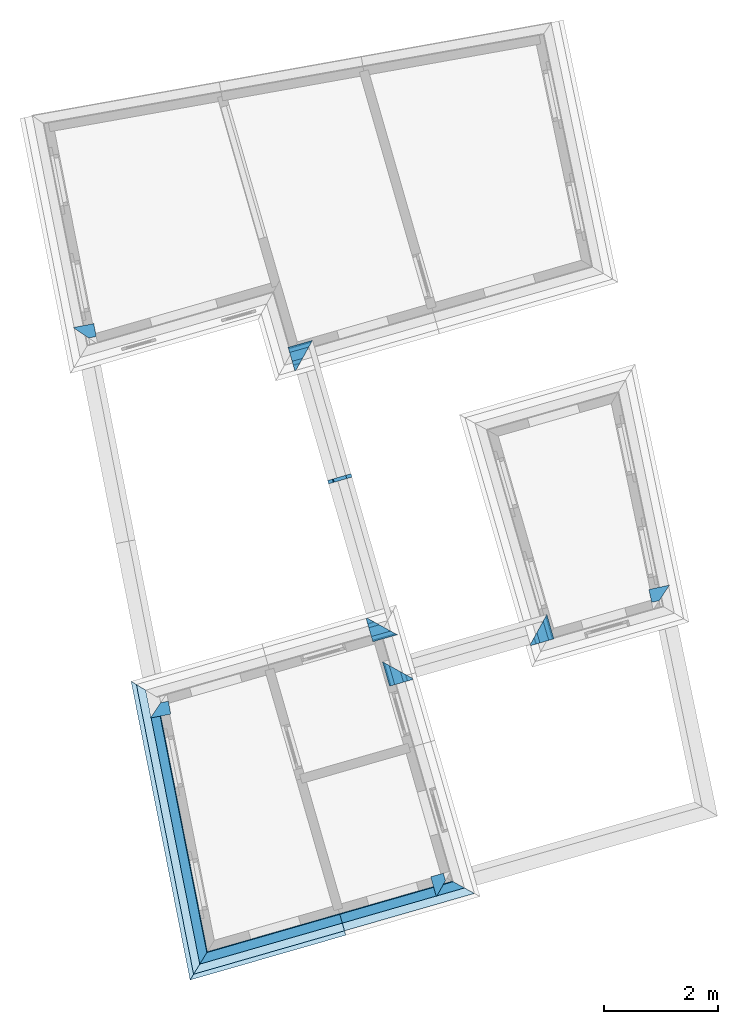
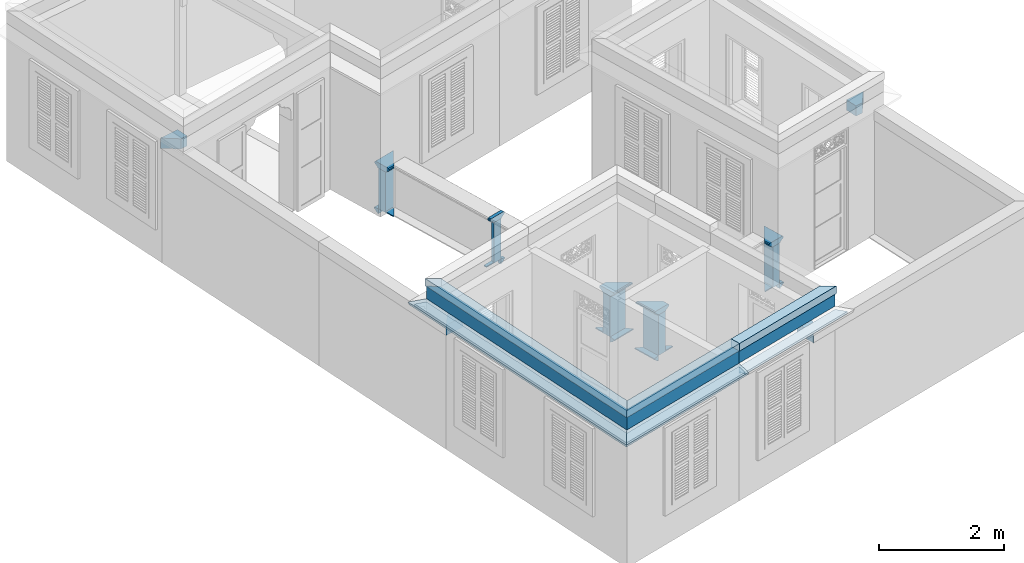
# One storey, part 19 of 22: 19 walls, 11 roofs.
"""IFC4 building model written with IfcOpenShell, lengths in metres."""

from ifc_helpers import new_model, si_unit, frame, origin_with_axes, place, context, subcontext, project, spatial, polyline, outline, extrude, clip, halfspace, material_profile, profile_set, profile_usage, type_object, element, save


model = new_model("IFC4")

# Units and contexts
model_context = context("Model", 3, world=origin_with_axes())
body_context = subcontext(model_context, "Body", "Model", "MODEL_VIEW")
ifc_project = project(units=[si_unit("PLANEANGLEUNIT", "RADIAN"), si_unit("MASSUNIT", "GRAM", prefix="KILO"), si_unit("FORCEUNIT", "NEWTON", prefix="KILO"), si_unit("LENGTHUNIT", "METRE"), si_unit("AREAUNIT", "SQUARE_METRE"), si_unit("VOLUMEUNIT", "CUBIC_METRE")], contexts=[model_context, model_context])

# Site, building, storey
site_placement = place(None, origin_with_axes())
site = spatial("IfcSite", under=ifc_project, at=site_placement, Name="Site plot-9", CompositionType="ELEMENT")
building_placement = place(None, origin_with_axes())
building = spatial("IfcBuilding", under=site, at=building_placement, Name="Building plot-9", CompositionType="ELEMENT")
storey_placement = place(None, frame((0.0, 0.0, 2.85), z_axis=(0.0, 0.0, 1.0), x_axis=(1.0, 0.0, 0.0)))
storey = spatial("IfcBuildingStorey", under=building, at=storey_placement, Name="plot-9 1", CompositionType="ELEMENT", Elevation=2.85)

# Walls
ifc_material_profile_1 = material_profile(None, outline(polyline([(0.265, 2.245), (0.265, 2.445), (0.035, 2.445), (0.035, 2.245), (0.265, 2.245)])))
ifc_profile_set_1 = profile_set([ifc_material_profile_1])
ifc_profile_usage_1 = profile_usage(ifc_profile_set_1)
wall_type_1 = type_object("IfcWallType", Name="parapet street_1", PredefinedType="PARAPET", material=ifc_profile_set_1)
wall_1_placement = place(storey_placement, frame((-23.2989770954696, 3.63143308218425, 0.0), z_axis=(0.981065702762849, 0.193675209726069, 0.0), x_axis=(-0.193675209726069, 0.981065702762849, 0.0)))
element("IfcWall", 1, at=wall_1_placement, inside=storey, type_object=wall_type_1, material=ifc_profile_usage_1, Name="parapet street_1", context=body_context, shape_type="Clipping", body=[
    clip(clip(extrude(outline(polyline([(0.265, 2.245), (0.265, 2.445), (0.035, 2.445), (0.035, 2.245), (0.265, 2.245)])), origin_with_axes(), (0.0, 0.0, 1.0), 2.1), halfspace(frame((0.0, 0.0, 1.1), z_axis=(-9.49410759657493e-16, 0.0, -1.0), x_axis=(0.0, 1.0, 0.0)), True)), halfspace(frame((0.0, 0.0, 1.0), z_axis=(-0.707106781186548, 0.0, -0.707106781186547), x_axis=(0.0, 1.0, 0.0)), False)),
])
ifc_profile_usage_2 = profile_usage(ifc_profile_set_1)
wall_2_placement = place(storey_placement, frame((-19.9928869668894, -2.27273832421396, 0.0), z_axis=(-0.981065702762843, -0.193675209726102, 0.0), x_axis=(0.193675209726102, -0.981065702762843, 0.0)))
element("IfcWall", 2, at=wall_2_placement, inside=storey, type_object=wall_type_1, material=ifc_profile_usage_2, Name="parapet street_1", context=body_context, shape_type="Clipping", body=[
    clip(clip(extrude(outline(polyline([(0.265, 2.245), (0.265, 2.445), (0.035, 2.445), (0.035, 2.245), (0.265, 2.245)])), origin_with_axes(), (0.0, 0.0, 1.0), 2.1), halfspace(frame((0.0, 0.0, 1.1), z_axis=(0.707106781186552, 0.0, -0.707106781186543), x_axis=(0.0, 1.0, 0.0)), True)), halfspace(frame((0.0, 0.0, 1.0), z_axis=(-5.0532154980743e-16, 0.0, -1.0), x_axis=(0.0, 1.0, 0.0)), False)),
])
ifc_material_profile_2 = material_profile(None, outline(polyline([(0.265, 2.245), (0.265, 2.445), (0.035, 2.445), (0.035, 2.245), (0.265, 2.245)])))
ifc_profile_set_2 = profile_set([ifc_material_profile_2])
ifc_profile_usage_3 = profile_usage(ifc_profile_set_2)
wall_type_2 = type_object("IfcWallType", Name="parapet street_1", PredefinedType="PARAPET", material=ifc_profile_set_2)
wall_3_placement = place(storey_placement, frame((-15.8179590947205, -6.5580326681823, 0.0), z_axis=(-0.276523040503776, 0.961007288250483, 0.0), x_axis=(-0.961007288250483, -0.276523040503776, 0.0)))
element("IfcWall", 3, at=wall_3_placement, inside=storey, type_object=wall_type_2, material=ifc_profile_usage_3, Name="parapet street_1", context=body_context, shape_type="Clipping", body=[
    clip(clip(extrude(outline(polyline([(0.265, 2.245), (0.265, 2.445), (0.035, 2.445), (0.035, 2.245), (0.265, 2.245)])), origin_with_axes(), (0.0, 0.0, 1.0), 2.1), halfspace(frame((0.0, 0.0, 1.1), z_axis=(-6.12323399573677e-17, 0.0, -1.0), x_axis=(0.0, 1.0, 0.0)), True)), halfspace(frame((0.0, 0.0, 1.0), z_axis=(-0.707106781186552, 0.0, -0.707106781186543), x_axis=(0.0, 1.0, 0.0)), False)),
])
ifc_profile_usage_4 = profile_usage(ifc_profile_set_2)
wall_4_placement = place(storey_placement, frame((-13.4837468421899, -1.01017131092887, 0.0), z_axis=(0.97889137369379, 0.204381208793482, 0.0), x_axis=(-0.204381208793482, 0.97889137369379, 0.0)))
element("IfcWall", 4, at=wall_4_placement, inside=storey, type_object=wall_type_2, material=ifc_profile_usage_4, Name="parapet street_1", context=body_context, shape_type="Clipping", body=[
    clip(clip(extrude(outline(polyline([(0.265, 2.245), (0.265, 2.445), (0.035, 2.445), (0.035, 2.245), (0.265, 2.245)])), origin_with_axes(), (0.0, 0.0, 1.0), 2.1), halfspace(frame((0.0, 0.0, 1.1), z_axis=(0.707106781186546, 0.0, -0.707106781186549), x_axis=(0.0, 1.0, 0.0)), True)), halfspace(frame((0.0, 0.0, 1.0), z_axis=(3.82856869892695e-16, 0.0, -1.0), x_axis=(0.0, 1.0, 0.0)), False)),
])
ifc_material_profile_3 = material_profile(None, outline(polyline([(0.25, 0.0), (0.25, 0.795), (0.09, 0.795), (0.09, 0.02), (-0.08, 0.02), (-0.08, 0.0), (0.25, 0.0)])))
ifc_profile_set_3 = profile_set([ifc_material_profile_3])
ifc_profile_usage_5 = profile_usage(ifc_profile_set_3)
wall_type_3 = type_object("IfcWallType", Name="parapet internal_0", PredefinedType="PARAPET", material=ifc_profile_set_3)
wall_5_placement = place(storey_placement, frame((-16.4265914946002, -0.826502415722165, 0.0), z_axis=(-0.961007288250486, -0.276523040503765, 0.0), x_axis=(0.276523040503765, -0.961007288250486, 0.0)))
element("IfcWall", 5, at=wall_5_placement, inside=storey, type_object=wall_type_3, material=ifc_profile_usage_5, Name="parapet internal_0", context=body_context, shape_type="Clipping", body=[
    clip(clip(extrude(outline(polyline([(0.25, 0.0), (0.25, 0.795), (0.09, 0.795), (0.09, 0.02), (-0.08, 0.02), (-0.08, 0.0), (0.25, 0.0)])), origin_with_axes(), (0.0, 0.0, 1.0), 2.1), halfspace(frame((0.0, 0.0, 1.1), z_axis=(3.82856869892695e-16, 0.0, -1.0), x_axis=(0.0, 1.0, 0.0)), True)), halfspace(frame((0.0, 0.0, 1.0), z_axis=(-0.70710678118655, 0.0, -0.707106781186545), x_axis=(0.0, 1.0, 0.0)), False)),
])
ifc_profile_usage_6 = profile_usage(ifc_profile_set_3)
wall_6_placement = place(storey_placement, frame((-18.3789606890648, 2.34227883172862, 0.0), z_axis=(0.276523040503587, -0.961007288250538, 0.0), x_axis=(0.961007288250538, 0.276523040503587, 0.0)))
element("IfcWall", 6, at=wall_6_placement, inside=storey, type_object=wall_type_3, material=ifc_profile_usage_6, Name="parapet internal_0", context=body_context, shape_type="Clipping", body=[
    clip(clip(extrude(outline(polyline([(0.25, 0.0), (0.25, 0.795), (0.09, 0.795), (0.09, 0.02), (-0.08, 0.02), (-0.08, 0.0), (0.25, 0.0)])), origin_with_axes(), (0.0, 0.0, 1.0), 2.06020774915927), halfspace(frame((0.0, 0.0, 1.06020774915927), z_axis=(-1.89465280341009e-13, 0.0, -1.0), x_axis=(0.0, 1.0, 0.0)), True)), halfspace(frame((0.0, 0.0, 1.0), z_axis=(3.82856869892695e-16, 0.0, -1.0), x_axis=(0.0, 1.0, 0.0)), False)),
])
ifc_profile_usage_7 = profile_usage(ifc_profile_set_3)
wall_7_placement = place(storey_placement, frame((-19.7363040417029, 3.08151869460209, 0.0), z_axis=(0.961007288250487, 0.276523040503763, 0.0), x_axis=(-0.276523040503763, 0.961007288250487, 0.0)))
element("IfcWall", 7, at=wall_7_placement, inside=storey, type_object=wall_type_3, material=ifc_profile_usage_7, Name="parapet internal_0", context=body_context, shape_type="Clipping", body=[
    clip(clip(extrude(outline(polyline([(0.25, 0.0), (0.25, 0.795), (0.09, 0.795), (0.09, 0.02), (-0.08, 0.02), (-0.08, 0.0), (0.25, 0.0)])), origin_with_axes(), (0.0, 0.0, 1.0), 2.1), halfspace(frame((0.0, 0.0, 1.1), z_axis=(0.707106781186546, 0.0, -0.707106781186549), x_axis=(0.0, 1.0, 0.0)), True)), halfspace(frame((0.0, 0.0, 1.0), z_axis=(1.71512449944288e-15, 0.0, -1.0), x_axis=(0.0, 1.0, 0.0)), False)),
])
ifc_material_profile_4 = material_profile(None, outline(polyline([(0.265, 0.795), (0.268, 0.807), (0.274, 0.816), (0.283, 0.822), (0.295, 0.825), (0.295, 0.84), (0.305, 0.84), (0.317, 0.842), (0.326, 0.849), (0.333, 0.858), (0.335, 0.87), (0.333, 0.882), (0.326, 0.891), (0.317, 0.898), (0.305, 0.9), (0.035, 0.9), (0.023, 0.898), (0.014, 0.891), (0.007, 0.882), (0.005, 0.87), (0.007, 0.858), (0.014, 0.849), (0.023, 0.842), (0.035, 0.84), (0.045, 0.84), (0.045, 0.825), (0.057, 0.822), (0.066, 0.816), (0.072, 0.807), (0.075, 0.795), (0.265, 0.795)])))
ifc_profile_set_4 = profile_set([ifc_material_profile_4])
ifc_profile_usage_8 = profile_usage(ifc_profile_set_4)
wall_type_4 = type_object("IfcWallType", Name="parapet internal_1", PredefinedType="PARAPET", material=ifc_profile_set_4)
wall_8_placement = place(storey_placement, frame((-16.4265914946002, -0.826502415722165, 0.0), z_axis=(-0.961007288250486, -0.276523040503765, 0.0), x_axis=(0.276523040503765, -0.961007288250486, 0.0)))
element("IfcWall", 8, at=wall_8_placement, inside=storey, type_object=wall_type_4, material=ifc_profile_usage_8, Name="parapet internal_1", context=body_context, shape_type="Clipping", body=[
    clip(clip(extrude(outline(polyline([(0.265, 0.795), (0.268, 0.807), (0.274, 0.816), (0.283, 0.822), (0.295, 0.825), (0.295, 0.84), (0.305, 0.84), (0.317, 0.842), (0.326, 0.849), (0.333, 0.858), (0.335, 0.87), (0.333, 0.882), (0.326, 0.891), (0.317, 0.898), (0.305, 0.9), (0.035, 0.9), (0.023, 0.898), (0.014, 0.891), (0.007, 0.882), (0.005, 0.87), (0.007, 0.858), (0.014, 0.849), (0.023, 0.842), (0.035, 0.84), (0.045, 0.84), (0.045, 0.825), (0.057, 0.822), (0.066, 0.816), (0.072, 0.807), (0.075, 0.795), (0.265, 0.795)])), origin_with_axes(), (0.0, 0.0, 1.0), 2.1), halfspace(frame((0.0, 0.0, 1.1), z_axis=(3.82856869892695e-16, 0.0, -1.0), x_axis=(0.0, 1.0, 0.0)), True)), halfspace(frame((0.0, 0.0, 1.0), z_axis=(-0.70710678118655, 0.0, -0.707106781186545), x_axis=(0.0, 1.0, 0.0)), False)),
])
ifc_profile_usage_9 = profile_usage(ifc_profile_set_4)
wall_9_placement = place(storey_placement, frame((-18.3789606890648, 2.34227883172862, 0.0), z_axis=(0.276523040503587, -0.961007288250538, 0.0), x_axis=(0.961007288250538, 0.276523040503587, 0.0)))
element("IfcWall", 9, at=wall_9_placement, inside=storey, type_object=wall_type_4, material=ifc_profile_usage_9, Name="parapet internal_1", context=body_context, shape_type="Clipping", body=[
    clip(clip(extrude(outline(polyline([(0.265, 0.795), (0.268, 0.807), (0.274, 0.816), (0.283, 0.822), (0.295, 0.825), (0.295, 0.84), (0.305, 0.84), (0.317, 0.842), (0.326, 0.849), (0.333, 0.858), (0.335, 0.87), (0.333, 0.882), (0.326, 0.891), (0.317, 0.898), (0.305, 0.9), (0.035, 0.9), (0.023, 0.898), (0.014, 0.891), (0.007, 0.882), (0.005, 0.87), (0.007, 0.858), (0.014, 0.849), (0.023, 0.842), (0.035, 0.84), (0.045, 0.84), (0.045, 0.825), (0.057, 0.822), (0.066, 0.816), (0.072, 0.807), (0.075, 0.795), (0.265, 0.795)])), origin_with_axes(), (0.0, 0.0, 1.0), 2.06020774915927), halfspace(frame((0.0, 0.0, 1.06020774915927), z_axis=(-1.89465280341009e-13, 0.0, -1.0), x_axis=(0.0, 1.0, 0.0)), True)), halfspace(frame((0.0, 0.0, 1.0), z_axis=(3.82856869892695e-16, 0.0, -1.0), x_axis=(0.0, 1.0, 0.0)), False)),
])
ifc_profile_usage_10 = profile_usage(ifc_profile_set_4)
wall_10_placement = place(storey_placement, frame((-19.7363040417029, 3.08151869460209, 0.0), z_axis=(0.961007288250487, 0.276523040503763, 0.0), x_axis=(-0.276523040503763, 0.961007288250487, 0.0)))
element("IfcWall", 10, at=wall_10_placement, inside=storey, type_object=wall_type_4, material=ifc_profile_usage_10, Name="parapet internal_1", context=body_context, shape_type="Clipping", body=[
    clip(clip(extrude(outline(polyline([(0.265, 0.795), (0.268, 0.807), (0.274, 0.816), (0.283, 0.822), (0.295, 0.825), (0.295, 0.84), (0.305, 0.84), (0.317, 0.842), (0.326, 0.849), (0.333, 0.858), (0.335, 0.87), (0.333, 0.882), (0.326, 0.891), (0.317, 0.898), (0.305, 0.9), (0.035, 0.9), (0.023, 0.898), (0.014, 0.891), (0.007, 0.882), (0.005, 0.87), (0.007, 0.858), (0.014, 0.849), (0.023, 0.842), (0.035, 0.84), (0.045, 0.84), (0.045, 0.825), (0.057, 0.822), (0.066, 0.816), (0.072, 0.807), (0.075, 0.795), (0.265, 0.795)])), origin_with_axes(), (0.0, 0.0, 1.0), 2.1), halfspace(frame((0.0, 0.0, 1.1), z_axis=(0.707106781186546, 0.0, -0.707106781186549), x_axis=(0.0, 1.0, 0.0)), True)), halfspace(frame((0.0, 0.0, 1.0), z_axis=(1.71512449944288e-15, 0.0, -1.0), x_axis=(0.0, 1.0, 0.0)), False)),
])
ifc_material_profile_5 = material_profile(None, outline(polyline([(0.25, -0.1), (0.265, -0.1), (0.265, -0.085), (0.278, -0.084), (0.289, -0.081), (0.301, -0.074), (0.309, -0.065), (0.315, -0.055), (0.324, -0.044), (0.334, -0.038), (0.345, -0.035), (0.345, -0.015), (0.25, 0.0), (0.25, -0.1)])))
ifc_profile_set_5 = profile_set([ifc_material_profile_5])
ifc_profile_usage_11 = profile_usage(ifc_profile_set_5)
wall_type_5 = type_object("IfcWallType", Name="parapet internal_2", PredefinedType="PARAPET", material=ifc_profile_set_5)
wall_11_placement = place(storey_placement, frame((-16.4265914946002, -0.826502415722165, 0.0), z_axis=(-0.961007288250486, -0.276523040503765, 0.0), x_axis=(0.276523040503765, -0.961007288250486, 0.0)))
element("IfcWall", 11, at=wall_11_placement, inside=storey, type_object=wall_type_5, material=ifc_profile_usage_11, Name="parapet internal_2", context=body_context, shape_type="Clipping", body=[
    clip(clip(extrude(outline(polyline([(0.25, -0.1), (0.265, -0.1), (0.265, -0.085), (0.278, -0.084), (0.289, -0.081), (0.301, -0.074), (0.309, -0.065), (0.315, -0.055), (0.324, -0.044), (0.334, -0.038), (0.345, -0.035), (0.345, -0.015), (0.25, 0.0), (0.25, -0.1)])), origin_with_axes(), (0.0, 0.0, 1.0), 2.1), halfspace(frame((0.0, 0.0, 1.1), z_axis=(3.82856869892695e-16, 0.0, -1.0), x_axis=(0.0, 1.0, 0.0)), True)), halfspace(frame((0.0, 0.0, 1.0), z_axis=(-0.70710678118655, 0.0, -0.707106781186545), x_axis=(0.0, 1.0, 0.0)), False)),
])
ifc_profile_usage_12 = profile_usage(ifc_profile_set_5)
wall_12_placement = place(storey_placement, frame((-18.3789606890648, 2.34227883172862, 0.0), z_axis=(0.276523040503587, -0.961007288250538, 0.0), x_axis=(0.961007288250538, 0.276523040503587, 0.0)))
element("IfcWall", 12, at=wall_12_placement, inside=storey, type_object=wall_type_5, material=ifc_profile_usage_12, Name="parapet internal_2", context=body_context, shape_type="Clipping", body=[
    clip(clip(extrude(outline(polyline([(0.25, -0.1), (0.265, -0.1), (0.265, -0.085), (0.278, -0.084), (0.289, -0.081), (0.301, -0.074), (0.309, -0.065), (0.315, -0.055), (0.324, -0.044), (0.334, -0.038), (0.345, -0.035), (0.345, -0.015), (0.25, 0.0), (0.25, -0.1)])), origin_with_axes(), (0.0, 0.0, 1.0), 2.06020774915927), halfspace(frame((0.0, 0.0, 1.06020774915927), z_axis=(-1.89465280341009e-13, 0.0, -1.0), x_axis=(0.0, 1.0, 0.0)), True)), halfspace(frame((0.0, 0.0, 1.0), z_axis=(3.82856869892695e-16, 0.0, -1.0), x_axis=(0.0, 1.0, 0.0)), False)),
])
ifc_profile_usage_13 = profile_usage(ifc_profile_set_5)
wall_13_placement = place(storey_placement, frame((-19.7363040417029, 3.08151869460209, 0.0), z_axis=(0.961007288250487, 0.276523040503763, 0.0), x_axis=(-0.276523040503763, 0.961007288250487, 0.0)))
element("IfcWall", 13, at=wall_13_placement, inside=storey, type_object=wall_type_5, material=ifc_profile_usage_13, Name="parapet internal_2", context=body_context, shape_type="Clipping", body=[
    clip(clip(extrude(outline(polyline([(0.25, -0.1), (0.265, -0.1), (0.265, -0.085), (0.278, -0.084), (0.289, -0.081), (0.301, -0.074), (0.309, -0.065), (0.315, -0.055), (0.324, -0.044), (0.334, -0.038), (0.345, -0.035), (0.345, -0.015), (0.25, 0.0), (0.25, -0.1)])), origin_with_axes(), (0.0, 0.0, 1.0), 2.1), halfspace(frame((0.0, 0.0, 1.1), z_axis=(0.707106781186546, 0.0, -0.707106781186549), x_axis=(0.0, 1.0, 0.0)), True)), halfspace(frame((0.0, 0.0, 1.0), z_axis=(1.71512449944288e-15, 0.0, -1.0), x_axis=(0.0, 1.0, 0.0)), False)),
])
ifc_material_profile_6 = material_profile(None, outline(polyline([(0.25, 0.0), (0.25, 0.795), (0.09, 0.795), (0.09, 0.02), (-0.08, 0.02), (-0.08, 0.0), (0.25, 0.0)])))
ifc_profile_set_6 = profile_set([ifc_material_profile_6])
ifc_profile_usage_14 = profile_usage(ifc_profile_set_6)
wall_type_6 = type_object("IfcWallType", Name="parapet internal_0", PredefinedType="PARAPET", material=ifc_profile_set_6)
wall_14_placement = place(storey_placement, frame((-14.8562093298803, -0.449529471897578, 0.0), z_axis=(0.276523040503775, -0.961007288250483, 0.0), x_axis=(0.961007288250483, 0.276523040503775, 0.0)))
element("IfcWall", 14, at=wall_14_placement, inside=storey, type_object=wall_type_6, material=ifc_profile_usage_14, Name="parapet internal_0", context=body_context, shape_type="Clipping", body=[
    clip(clip(extrude(outline(polyline([(0.25, 0.0), (0.25, 0.795), (0.09, 0.795), (0.09, 0.02), (-0.08, 0.02), (-0.08, 0.0), (0.25, 0.0)])), origin_with_axes(), (0.0, 0.0, 1.0), 2.1), halfspace(frame((0.0, 0.0, 1.1), z_axis=(3.82856869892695e-16, 0.0, -1.0), x_axis=(0.0, 1.0, 0.0)), True)), halfspace(frame((0.0, 0.0, 1.0), z_axis=(-0.707106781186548, 0.0, -0.707106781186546), x_axis=(0.0, 1.0, 0.0)), False)),
])
ifc_profile_usage_15 = profile_usage(ifc_profile_set_6)
wall_15_placement = place(storey_placement, frame((-16.4890859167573, -3.1045852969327, 0.0), z_axis=(-0.276523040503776, 0.961007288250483, 0.0), x_axis=(-0.961007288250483, -0.276523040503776, 0.0)))
element("IfcWall", 15, at=wall_15_placement, inside=storey, type_object=wall_type_6, material=ifc_profile_usage_15, Name="parapet internal_0", context=body_context, shape_type="Clipping", body=[
    clip(clip(extrude(outline(polyline([(0.25, 0.0), (0.25, 0.795), (0.09, 0.795), (0.09, 0.02), (-0.08, 0.02), (-0.08, 0.0), (0.25, 0.0)])), origin_with_axes(), (0.0, 0.0, 1.0), 2.1), halfspace(frame((0.0, 0.0, 1.1), z_axis=(0.707106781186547, 0.0, -0.707106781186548), x_axis=(0.0, 1.0, 0.0)), True)), halfspace(frame((0.0, 0.0, 1.0), z_axis=(-6.12323399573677e-17, 0.0, -1.0), x_axis=(0.0, 1.0, 0.0)), False)),
])
ifc_material_profile_7 = material_profile(None, outline(polyline([(0.265, 0.795), (0.268, 0.807), (0.274, 0.816), (0.283, 0.822), (0.295, 0.825), (0.295, 0.84), (0.305, 0.84), (0.317, 0.842), (0.326, 0.849), (0.333, 0.858), (0.335, 0.87), (0.333, 0.882), (0.326, 0.891), (0.317, 0.898), (0.305, 0.9), (0.035, 0.9), (0.023, 0.898), (0.014, 0.891), (0.007, 0.882), (0.005, 0.87), (0.007, 0.858), (0.014, 0.849), (0.023, 0.842), (0.035, 0.84), (0.045, 0.84), (0.045, 0.825), (0.057, 0.822), (0.066, 0.816), (0.072, 0.807), (0.075, 0.795), (0.265, 0.795)])))
ifc_profile_set_7 = profile_set([ifc_material_profile_7])
ifc_profile_usage_16 = profile_usage(ifc_profile_set_7)
wall_type_7 = type_object("IfcWallType", Name="parapet internal_1", PredefinedType="PARAPET", material=ifc_profile_set_7)
wall_16_placement = place(storey_placement, frame((-14.8562093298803, -0.449529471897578, 0.0), z_axis=(0.276523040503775, -0.961007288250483, 0.0), x_axis=(0.961007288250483, 0.276523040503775, 0.0)))
element("IfcWall", 16, at=wall_16_placement, inside=storey, type_object=wall_type_7, material=ifc_profile_usage_16, Name="parapet internal_1", context=body_context, shape_type="Clipping", body=[
    clip(clip(extrude(outline(polyline([(0.265, 0.795), (0.268, 0.807), (0.274, 0.816), (0.283, 0.822), (0.295, 0.825), (0.295, 0.84), (0.305, 0.84), (0.317, 0.842), (0.326, 0.849), (0.333, 0.858), (0.335, 0.87), (0.333, 0.882), (0.326, 0.891), (0.317, 0.898), (0.305, 0.9), (0.035, 0.9), (0.023, 0.898), (0.014, 0.891), (0.007, 0.882), (0.005, 0.87), (0.007, 0.858), (0.014, 0.849), (0.023, 0.842), (0.035, 0.84), (0.045, 0.84), (0.045, 0.825), (0.057, 0.822), (0.066, 0.816), (0.072, 0.807), (0.075, 0.795), (0.265, 0.795)])), origin_with_axes(), (0.0, 0.0, 1.0), 2.1), halfspace(frame((0.0, 0.0, 1.1), z_axis=(3.82856869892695e-16, 0.0, -1.0), x_axis=(0.0, 1.0, 0.0)), True)), halfspace(frame((0.0, 0.0, 1.0), z_axis=(-0.707106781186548, 0.0, -0.707106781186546), x_axis=(0.0, 1.0, 0.0)), False)),
])
ifc_profile_usage_17 = profile_usage(ifc_profile_set_7)
wall_17_placement = place(storey_placement, frame((-16.4890859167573, -3.1045852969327, 0.0), z_axis=(-0.276523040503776, 0.961007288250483, 0.0), x_axis=(-0.961007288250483, -0.276523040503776, 0.0)))
element("IfcWall", 17, at=wall_17_placement, inside=storey, type_object=wall_type_7, material=ifc_profile_usage_17, Name="parapet internal_1", context=body_context, shape_type="Clipping", body=[
    clip(clip(extrude(outline(polyline([(0.265, 0.795), (0.268, 0.807), (0.274, 0.816), (0.283, 0.822), (0.295, 0.825), (0.295, 0.84), (0.305, 0.84), (0.317, 0.842), (0.326, 0.849), (0.333, 0.858), (0.335, 0.87), (0.333, 0.882), (0.326, 0.891), (0.317, 0.898), (0.305, 0.9), (0.035, 0.9), (0.023, 0.898), (0.014, 0.891), (0.007, 0.882), (0.005, 0.87), (0.007, 0.858), (0.014, 0.849), (0.023, 0.842), (0.035, 0.84), (0.045, 0.84), (0.045, 0.825), (0.057, 0.822), (0.066, 0.816), (0.072, 0.807), (0.075, 0.795), (0.265, 0.795)])), origin_with_axes(), (0.0, 0.0, 1.0), 2.1), halfspace(frame((0.0, 0.0, 1.1), z_axis=(0.707106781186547, 0.0, -0.707106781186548), x_axis=(0.0, 1.0, 0.0)), True)), halfspace(frame((0.0, 0.0, 1.0), z_axis=(-6.12323399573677e-17, 0.0, -1.0), x_axis=(0.0, 1.0, 0.0)), False)),
])
ifc_material_profile_8 = material_profile(None, outline(polyline([(0.25, -0.1), (0.265, -0.1), (0.265, -0.085), (0.278, -0.084), (0.289, -0.081), (0.301, -0.074), (0.309, -0.065), (0.315, -0.055), (0.324, -0.044), (0.334, -0.038), (0.345, -0.035), (0.345, -0.015), (0.25, 0.0), (0.25, -0.1)])))
ifc_profile_set_8 = profile_set([ifc_material_profile_8])
ifc_profile_usage_18 = profile_usage(ifc_profile_set_8)
wall_type_8 = type_object("IfcWallType", Name="parapet internal_2", PredefinedType="PARAPET", material=ifc_profile_set_8)
wall_18_placement = place(storey_placement, frame((-14.8562093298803, -0.449529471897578, 0.0), z_axis=(0.276523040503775, -0.961007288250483, 0.0), x_axis=(0.961007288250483, 0.276523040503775, 0.0)))
element("IfcWall", 18, at=wall_18_placement, inside=storey, type_object=wall_type_8, material=ifc_profile_usage_18, Name="parapet internal_2", context=body_context, shape_type="Clipping", body=[
    clip(clip(extrude(outline(polyline([(0.25, -0.1), (0.265, -0.1), (0.265, -0.085), (0.278, -0.084), (0.289, -0.081), (0.301, -0.074), (0.309, -0.065), (0.315, -0.055), (0.324, -0.044), (0.334, -0.038), (0.345, -0.035), (0.345, -0.015), (0.25, 0.0), (0.25, -0.1)])), origin_with_axes(), (0.0, 0.0, 1.0), 2.1), halfspace(frame((0.0, 0.0, 1.1), z_axis=(3.82856869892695e-16, 0.0, -1.0), x_axis=(0.0, 1.0, 0.0)), True)), halfspace(frame((0.0, 0.0, 1.0), z_axis=(-0.707106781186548, 0.0, -0.707106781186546), x_axis=(0.0, 1.0, 0.0)), False)),
])
ifc_profile_usage_19 = profile_usage(ifc_profile_set_8)
wall_19_placement = place(storey_placement, frame((-16.4890859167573, -3.1045852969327, 0.0), z_axis=(-0.276523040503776, 0.961007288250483, 0.0), x_axis=(-0.961007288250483, -0.276523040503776, 0.0)))
element("IfcWall", 19, at=wall_19_placement, inside=storey, type_object=wall_type_8, material=ifc_profile_usage_19, Name="parapet internal_2", context=body_context, shape_type="Clipping", body=[
    clip(clip(extrude(outline(polyline([(0.25, -0.1), (0.265, -0.1), (0.265, -0.085), (0.278, -0.084), (0.289, -0.081), (0.301, -0.074), (0.309, -0.065), (0.315, -0.055), (0.324, -0.044), (0.334, -0.038), (0.345, -0.035), (0.345, -0.015), (0.25, 0.0), (0.25, -0.1)])), origin_with_axes(), (0.0, 0.0, 1.0), 2.1), halfspace(frame((0.0, 0.0, 1.1), z_axis=(0.707106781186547, 0.0, -0.707106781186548), x_axis=(0.0, 1.0, 0.0)), True)), halfspace(frame((0.0, 0.0, 1.0), z_axis=(-6.12323399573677e-17, 0.0, -1.0), x_axis=(0.0, 1.0, 0.0)), False)),
])

# Roofs
ifc_material_profile_9 = material_profile(None, outline(polyline([(0.25, 0.0), (0.25, 0.245), (0.09, 0.245), (0.09, 0.0), (0.25, 0.0)])))
ifc_profile_set_9 = profile_set([ifc_material_profile_9])
ifc_profile_usage_20 = profile_usage(ifc_profile_set_9)
roof_type_1 = type_object("IfcRoofType", Name="roofline_0", PredefinedType="FREEFORM", material=ifc_profile_set_9)
roof_1_placement = place(storey_placement, frame((-20.0296480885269, -7.76613588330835, 2.7), z_axis=(-0.193675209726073, 0.981065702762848, 0.0), x_axis=(-0.981065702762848, -0.193675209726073, 0.0)))
element("IfcRoof", 20, at=roof_1_placement, inside=storey, type_object=roof_type_1, material=ifc_profile_usage_20, Name="roofline_0", context=body_context, shape_type="Clipping", body=[
    clip(clip(extrude(outline(polyline([(0.25, 0.0), (0.25, 0.245), (0.09, 0.245), (0.09, 0.0), (0.25, 0.0)])), origin_with_axes(), (0.0, 0.0, 1.0), 6.3822642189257), halfspace(frame((0.0, 0.0, 5.3822642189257), z_axis=(0.676326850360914, 0.0, -0.736601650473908), x_axis=(0.0, 1.0, 0.0)), True)), halfspace(frame((0.0, 0.0, 1.0), z_axis=(-0.736601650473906, 0.0, -0.676326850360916), x_axis=(0.0, 1.0, 0.0)), False)),
])
ifc_profile_usage_21 = profile_usage(ifc_profile_set_9)
roof_2_placement = place(storey_placement, frame((-17.0309102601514, -5.86647594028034, 2.7), z_axis=(-0.961007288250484, -0.276523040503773, 0.0), x_axis=(0.276523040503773, -0.961007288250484, 0.0)))
element("IfcRoof", 21, at=roof_2_placement, inside=storey, type_object=roof_type_1, material=ifc_profile_usage_21, Name="roofline_0", context=body_context, shape_type="Clipping", body=[
    clip(clip(extrude(outline(polyline([(0.25, 0.0), (0.25, 0.245), (0.09, 0.245), (0.09, 0.0), (0.25, 0.0)])), origin_with_axes(), (0.0, 0.0, 1.0), 4.32194466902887), halfspace(frame((0.0, 0.0, 3.32194466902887), z_axis=(0.7366016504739, 0.0, -0.676326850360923), x_axis=(0.0, 1.0, 0.0)), True)), halfspace(frame((0.0, 0.0, 1.0), z_axis=(8.26946079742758e-16, 0.0, -1.0), x_axis=(0.0, 1.0, 0.0)), False)),
])
ifc_profile_usage_22 = profile_usage(ifc_profile_set_9)
roof_3_placement = place(storey_placement, frame((-15.1334748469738, -5.32050233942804, 2.7), z_axis=(-0.961007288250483, -0.276523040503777, 0.0), x_axis=(0.276523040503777, -0.961007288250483, 0.0)))
element("IfcRoof", 22, at=roof_3_placement, inside=storey, type_object=roof_type_1, material=ifc_profile_usage_22, Name="roofline_0", context=body_context, shape_type="Clipping", body=[
    clip(clip(extrude(outline(polyline([(0.25, 0.0), (0.25, 0.245), (0.09, 0.245), (0.09, 0.0), (0.25, 0.0)])), origin_with_axes(), (0.0, 0.0, 1.0), 3.97442354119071), halfspace(frame((0.0, 0.0, 2.97442354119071), z_axis=(5.26783817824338e-15, 0.0, -1.0), x_axis=(0.0, 1.0, 0.0)), True)), halfspace(frame((0.0, 0.0, 1.0), z_axis=(-0.707106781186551, 0.0, -0.707106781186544), x_axis=(0.0, 1.0, 0.0)), False)),
])
ifc_material_profile_10 = material_profile(None, outline(polyline([(0.265, 0.245), (0.265, 0.395), (0.075, 0.395), (0.075, 0.245), (0.265, 0.245)])))
ifc_profile_set_10 = profile_set([ifc_material_profile_10])
ifc_profile_usage_23 = profile_usage(ifc_profile_set_10)
roof_type_2 = type_object("IfcRoofType", Name="roofline_1", PredefinedType="FREEFORM", material=ifc_profile_set_10)
roof_4_placement = place(storey_placement, frame((-20.0296480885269, -7.76613588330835, 2.7), z_axis=(-0.193675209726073, 0.981065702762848, 0.0), x_axis=(-0.981065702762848, -0.193675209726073, 0.0)))
element("IfcRoof", 23, at=roof_4_placement, inside=storey, type_object=roof_type_2, material=ifc_profile_usage_23, Name="roofline_1", context=body_context, shape_type="Clipping", body=[
    clip(clip(extrude(outline(polyline([(0.265, 0.245), (0.265, 0.395), (0.075, 0.395), (0.075, 0.245), (0.265, 0.245)])), origin_with_axes(), (0.0, 0.0, 1.0), 6.3822642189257), halfspace(frame((0.0, 0.0, 5.3822642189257), z_axis=(0.676326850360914, 0.0, -0.736601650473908), x_axis=(0.0, 1.0, 0.0)), True)), halfspace(frame((0.0, 0.0, 1.0), z_axis=(-0.736601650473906, 0.0, -0.676326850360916), x_axis=(0.0, 1.0, 0.0)), False)),
])
ifc_profile_usage_24 = profile_usage(ifc_profile_set_10)
roof_5_placement = place(storey_placement, frame((-17.0309102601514, -5.86647594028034, 2.7), z_axis=(-0.961007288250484, -0.276523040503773, 0.0), x_axis=(0.276523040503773, -0.961007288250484, 0.0)))
element("IfcRoof", 24, at=roof_5_placement, inside=storey, type_object=roof_type_2, material=ifc_profile_usage_24, Name="roofline_1", context=body_context, shape_type="Clipping", body=[
    clip(clip(extrude(outline(polyline([(0.265, 0.245), (0.265, 0.395), (0.075, 0.395), (0.075, 0.245), (0.265, 0.245)])), origin_with_axes(), (0.0, 0.0, 1.0), 4.32194466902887), halfspace(frame((0.0, 0.0, 3.32194466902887), z_axis=(0.7366016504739, 0.0, -0.676326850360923), x_axis=(0.0, 1.0, 0.0)), True)), halfspace(frame((0.0, 0.0, 1.0), z_axis=(8.26946079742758e-16, 0.0, -1.0), x_axis=(0.0, 1.0, 0.0)), False)),
])
ifc_profile_usage_25 = profile_usage(ifc_profile_set_10)
roof_6_placement = place(storey_placement, frame((-15.1334748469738, -5.32050233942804, 2.7), z_axis=(-0.961007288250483, -0.276523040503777, 0.0), x_axis=(0.276523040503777, -0.961007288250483, 0.0)))
element("IfcRoof", 25, at=roof_6_placement, inside=storey, type_object=roof_type_2, material=ifc_profile_usage_25, Name="roofline_1", context=body_context, shape_type="Clipping", body=[
    clip(clip(extrude(outline(polyline([(0.265, 0.245), (0.265, 0.395), (0.075, 0.395), (0.075, 0.245), (0.265, 0.245)])), origin_with_axes(), (0.0, 0.0, 1.0), 3.97442354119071), halfspace(frame((0.0, 0.0, 2.97442354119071), z_axis=(5.26783817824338e-15, 0.0, -1.0), x_axis=(0.0, 1.0, 0.0)), True)), halfspace(frame((0.0, 0.0, 1.0), z_axis=(-0.707106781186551, 0.0, -0.707106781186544), x_axis=(0.0, 1.0, 0.0)), False)),
])
ifc_material_profile_11 = material_profile(None, outline(polyline([(0.25, -0.19), (0.275, -0.19), (0.275, -0.15), (0.39, -0.15), (0.39, -0.107509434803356), (0.25, -0.0629639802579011), (0.25, -0.19)])))
ifc_profile_set_11 = profile_set([ifc_material_profile_11])
ifc_profile_usage_26 = profile_usage(ifc_profile_set_11)
roof_type_3 = type_object("IfcRoofType", Name="eaves_0", PredefinedType="FREEFORM", material=ifc_profile_set_11)
roof_7_placement = place(storey_placement, frame((-20.0296480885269, -7.76613588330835, 2.7), z_axis=(-0.193675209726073, 0.981065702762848, 0.0), x_axis=(-0.981065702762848, -0.193675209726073, 0.0)))
element("IfcRoof", 26, at=roof_7_placement, inside=storey, type_object=roof_type_3, material=ifc_profile_usage_26, Name="eaves_0", context=body_context, shape_type="Clipping", body=[
    clip(clip(extrude(outline(polyline([(0.25, -0.19), (0.275, -0.19), (0.275, -0.15), (0.39, -0.15), (0.39, -0.107509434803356), (0.25, -0.0629639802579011), (0.25, -0.19)])), origin_with_axes(), (0.0, 0.0, 1.0), 6.3822642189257), halfspace(frame((0.0, 0.0, 5.3822642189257), z_axis=(0.676326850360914, 0.0, -0.736601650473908), x_axis=(0.0, 1.0, 0.0)), True)), halfspace(frame((0.0, 0.0, 1.0), z_axis=(-0.736601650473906, 0.0, -0.676326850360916), x_axis=(0.0, 1.0, 0.0)), False)),
])
ifc_profile_usage_27 = profile_usage(ifc_profile_set_11)
roof_8_placement = place(storey_placement, frame((-17.0309102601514, -5.86647594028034, 2.7), z_axis=(-0.961007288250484, -0.276523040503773, 0.0), x_axis=(0.276523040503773, -0.961007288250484, 0.0)))
element("IfcRoof", 27, at=roof_8_placement, inside=storey, type_object=roof_type_3, material=ifc_profile_usage_27, Name="eaves_0", context=body_context, shape_type="Clipping", body=[
    clip(clip(extrude(outline(polyline([(0.25, -0.19), (0.275, -0.19), (0.275, -0.15), (0.39, -0.15), (0.39, -0.107509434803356), (0.25, -0.0629639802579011), (0.25, -0.19)])), origin_with_axes(), (0.0, 0.0, 1.0), 4.32194466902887), halfspace(frame((0.0, 0.0, 3.32194466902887), z_axis=(0.7366016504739, 0.0, -0.676326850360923), x_axis=(0.0, 1.0, 0.0)), True)), halfspace(frame((0.0, 0.0, 1.0), z_axis=(8.26946079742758e-16, 0.0, -1.0), x_axis=(0.0, 1.0, 0.0)), False)),
])
ifc_profile_usage_28 = profile_usage(ifc_profile_set_11)
roof_9_placement = place(storey_placement, frame((-15.1334748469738, -5.32050233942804, 2.7), z_axis=(-0.961007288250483, -0.276523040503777, 0.0), x_axis=(0.276523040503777, -0.961007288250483, 0.0)))
element("IfcRoof", 28, at=roof_9_placement, inside=storey, type_object=roof_type_3, material=ifc_profile_usage_28, Name="eaves_0", context=body_context, shape_type="Clipping", body=[
    clip(clip(extrude(outline(polyline([(0.25, -0.19), (0.275, -0.19), (0.275, -0.15), (0.39, -0.15), (0.39, -0.107509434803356), (0.25, -0.0629639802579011), (0.25, -0.19)])), origin_with_axes(), (0.0, 0.0, 1.0), 3.97442354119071), halfspace(frame((0.0, 0.0, 2.97442354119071), z_axis=(5.26783817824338e-15, 0.0, -1.0), x_axis=(0.0, 1.0, 0.0)), True)), halfspace(frame((0.0, 0.0, 1.0), z_axis=(-0.707106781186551, 0.0, -0.707106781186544), x_axis=(0.0, 1.0, 0.0)), False)),
])
ifc_material_profile_12 = material_profile(None, outline(polyline([(0.25, -0.0629639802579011), (0.451807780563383, -0.127175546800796), (0.47, -0.07), (0.25, 0.0), (0.25, -0.0629639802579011)])))
ifc_profile_set_12 = profile_set([ifc_material_profile_12])
ifc_profile_usage_29 = profile_usage(ifc_profile_set_12)
roof_type_4 = type_object("IfcRoofType", Name="eaves_1", PredefinedType="FREEFORM", material=ifc_profile_set_12)
roof_10_placement = place(storey_placement, frame((-20.0296480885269, -7.76613588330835, 2.7), z_axis=(-0.193675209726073, 0.981065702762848, 0.0), x_axis=(-0.981065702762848, -0.193675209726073, 0.0)))
element("IfcRoof", 29, at=roof_10_placement, inside=storey, type_object=roof_type_4, material=ifc_profile_usage_29, Name="eaves_1", context=body_context, shape_type="Clipping", body=[
    clip(clip(extrude(outline(polyline([(0.25, -0.0629639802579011), (0.451807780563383, -0.127175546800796), (0.47, -0.07), (0.25, 0.0), (0.25, -0.0629639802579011)])), origin_with_axes(), (0.0, 0.0, 1.0), 6.3822642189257), halfspace(frame((0.0, 0.0, 5.3822642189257), z_axis=(0.676326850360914, 0.0, -0.736601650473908), x_axis=(0.0, 1.0, 0.0)), True)), halfspace(frame((0.0, 0.0, 1.0), z_axis=(-0.736601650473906, 0.0, -0.676326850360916), x_axis=(0.0, 1.0, 0.0)), False)),
])
ifc_profile_usage_30 = profile_usage(ifc_profile_set_12)
roof_11_placement = place(storey_placement, frame((-17.0309102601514, -5.86647594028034, 2.7), z_axis=(-0.961007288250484, -0.276523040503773, 0.0), x_axis=(0.276523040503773, -0.961007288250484, 0.0)))
element("IfcRoof", 30, at=roof_11_placement, inside=storey, type_object=roof_type_4, material=ifc_profile_usage_30, Name="eaves_1", context=body_context, shape_type="Clipping", body=[
    clip(clip(extrude(outline(polyline([(0.25, -0.0629639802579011), (0.451807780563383, -0.127175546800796), (0.47, -0.07), (0.25, 0.0), (0.25, -0.0629639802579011)])), origin_with_axes(), (0.0, 0.0, 1.0), 4.32194466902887), halfspace(frame((0.0, 0.0, 3.32194466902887), z_axis=(0.7366016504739, 0.0, -0.676326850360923), x_axis=(0.0, 1.0, 0.0)), True)), halfspace(frame((0.0, 0.0, 1.0), z_axis=(8.26946079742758e-16, 0.0, -1.0), x_axis=(0.0, 1.0, 0.0)), False)),
])

save(model, "model.ifc")
